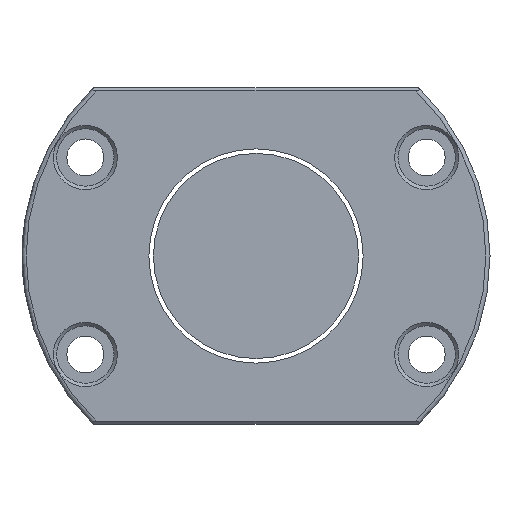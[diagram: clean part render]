
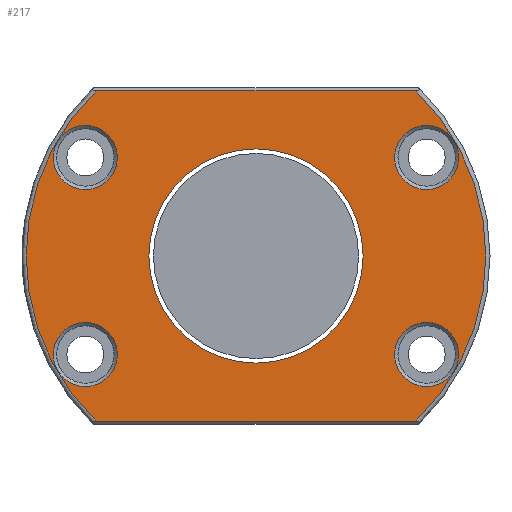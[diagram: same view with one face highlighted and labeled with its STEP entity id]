
A CAD part, left-side view. The second image highlights one B-rep face of the part: STEP entity #217.
In plain terms, the highlighted planar face has unit normal (-1, 0, 0).
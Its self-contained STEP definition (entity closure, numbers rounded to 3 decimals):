
#8 = EDGE_CURVE ( 'NONE', #587, #33, #94, .T. ) ;
#28 = AXIS2_PLACEMENT_3D ( 'NONE', #719, #949, #1255 ) ;
#33 = VERTEX_POINT ( 'NONE', #381 ) ;
#74 = FACE_BOUND ( 'NONE', #3743, .T. ) ;
#85 = EDGE_LOOP ( 'NONE', ( #988 ) ) ;
#94 = LINE ( 'NONE', #1886, #3528 ) ;
#142 = VERTEX_POINT ( 'NONE', #979 ) ;
#217 = ADVANCED_FACE ( 'NONE', ( #2753, #2203, #74, #1846, #1614, #1239 ), #3060, .T. ) ;
#234 = ORIENTED_EDGE ( 'NONE', *, *, #602, .T. ) ;
#253 = CIRCLE ( 'NONE', #3505, 7.8 ) ;
#269 = CIRCLE ( 'NONE', #3081, 7.8 ) ;
#311 = EDGE_LOOP ( 'NONE', ( #3599 ) ) ;
#343 = DIRECTION ( 'NONE',  ( 0., 0., -1. ) ) ;
#381 = CARTESIAN_POINT ( 'NONE',  ( -60., -38.987, -40.2 ) ) ;
#390 = VERTEX_POINT ( 'NONE', #1914 ) ;
#462 = CIRCLE ( 'NONE', #1081, 56. ) ;
#481 = DIRECTION ( 'NONE',  ( 1., 0., 0. ) ) ;
#523 = CARTESIAN_POINT ( 'NONE',  ( -60., 41.569, -16.2 ) ) ;
#587 = VERTEX_POINT ( 'NONE', #1101 ) ;
#602 = EDGE_CURVE ( 'NONE', #3165, #3544, #1375, .T. ) ;
#681 = CARTESIAN_POINT ( 'NONE',  ( -60., -38.987, 40.2 ) ) ;
#689 = EDGE_LOOP ( 'NONE', ( #3052, #1836, #234, #823 ) ) ;
#719 = CARTESIAN_POINT ( 'NONE',  ( -60., 57., 0. ) ) ;
#823 = ORIENTED_EDGE ( 'NONE', *, *, #3300, .T. ) ;
#942 = CIRCLE ( 'NONE', #1687, 7.8 ) ;
#949 = DIRECTION ( 'NONE',  ( -1., 0., 0. ) ) ;
#951 = CARTESIAN_POINT ( 'NONE',  ( -60., 0., 0. ) ) ;
#959 = CARTESIAN_POINT ( 'NONE',  ( -60., -41.569, -16.2 ) ) ;
#965 = CARTESIAN_POINT ( 'NONE',  ( -60., -41.569, -24. ) ) ;
#979 = CARTESIAN_POINT ( 'NONE',  ( -60., -41.569, 31.8 ) ) ;
#988 = ORIENTED_EDGE ( 'NONE', *, *, #3568, .T. ) ;
#1081 = AXIS2_PLACEMENT_3D ( 'NONE', #2886, #1945, #2596 ) ;
#1101 = CARTESIAN_POINT ( 'NONE',  ( -60., 38.987, -40.2 ) ) ;
#1103 = DIRECTION ( 'NONE',  ( 0., 0., 1. ) ) ;
#1116 = ORIENTED_EDGE ( 'NONE', *, *, #1584, .T. ) ;
#1175 = CARTESIAN_POINT ( 'NONE',  ( -60., 41.569, 24. ) ) ;
#1232 = DIRECTION ( 'NONE',  ( 0., 0., 1. ) ) ;
#1239 = FACE_BOUND ( 'NONE', #2107, .T. ) ;
#1255 = DIRECTION ( 'NONE',  ( 0., 0., 1. ) ) ;
#1269 = CIRCLE ( 'NONE', #2712, 56. ) ;
#1312 = EDGE_LOOP ( 'NONE', ( #1116 ) ) ;
#1375 = LINE ( 'NONE', #1997, #2282 ) ;
#1584 = EDGE_CURVE ( 'NONE', #3638, #3638, #253, .T. ) ;
#1613 = CARTESIAN_POINT ( 'NONE',  ( -60., -41.569, 24. ) ) ;
#1614 = FACE_BOUND ( 'NONE', #85, .T. ) ;
#1651 = ORIENTED_EDGE ( 'NONE', *, *, #2249, .T. ) ;
#1670 = DIRECTION ( 'NONE',  ( 0., 0., 1. ) ) ;
#1687 = AXIS2_PLACEMENT_3D ( 'NONE', #1613, #3472, #2524 ) ;
#1836 = ORIENTED_EDGE ( 'NONE', *, *, #3687, .T. ) ;
#1846 = FACE_BOUND ( 'NONE', #311, .T. ) ;
#1886 = CARTESIAN_POINT ( 'NONE',  ( -60., -39.598, -40.2 ) ) ;
#1898 = DIRECTION ( 'NONE',  ( 1., 0., 0. ) ) ;
#1914 = CARTESIAN_POINT ( 'NONE',  ( -60., 41.569, 31.8 ) ) ;
#1945 = DIRECTION ( 'NONE',  ( -1., 0., 0. ) ) ;
#1969 = VERTEX_POINT ( 'NONE', #523 ) ;
#1997 = CARTESIAN_POINT ( 'NONE',  ( -60., 39.598, 40.2 ) ) ;
#2107 = EDGE_LOOP ( 'NONE', ( #2174 ) ) ;
#2174 = ORIENTED_EDGE ( 'NONE', *, *, #2967, .T. ) ;
#2203 = FACE_BOUND ( 'NONE', #1312, .T. ) ;
#2224 = DIRECTION ( 'NONE',  ( 0., -1., 0. ) ) ;
#2247 = DIRECTION ( 'NONE',  ( 0., 0., 1. ) ) ;
#2249 = EDGE_CURVE ( 'NONE', #142, #142, #942, .T. ) ;
#2282 = VECTOR ( 'NONE', #3799, 1000. ) ;
#2303 = CARTESIAN_POINT ( 'NONE',  ( -60., 41.569, -24. ) ) ;
#2358 = DIRECTION ( 'NONE',  ( 1., 0., 0. ) ) ;
#2460 = AXIS2_PLACEMENT_3D ( 'NONE', #951, #3652, #343 ) ;
#2496 = EDGE_CURVE ( 'NONE', #390, #390, #3193, .T. ) ;
#2524 = DIRECTION ( 'NONE',  ( 0., 0., 1. ) ) ;
#2545 = DIRECTION ( 'NONE',  ( -1., 0., 0. ) ) ;
#2596 = DIRECTION ( 'NONE',  ( 0., 0., 1. ) ) ;
#2712 = AXIS2_PLACEMENT_3D ( 'NONE', #3103, #2545, #2247 ) ;
#2753 = FACE_OUTER_BOUND ( 'NONE', #689, .T. ) ;
#2762 = VERTEX_POINT ( 'NONE', #2799 ) ;
#2799 = CARTESIAN_POINT ( 'NONE',  ( -60., 0., -26.1 ) ) ;
#2849 = CARTESIAN_POINT ( 'NONE',  ( -60., 38.987, 40.2 ) ) ;
#2886 = CARTESIAN_POINT ( 'NONE',  ( -60., 0., 0. ) ) ;
#2967 = EDGE_CURVE ( 'NONE', #2762, #2762, #3001, .T. ) ;
#3001 = CIRCLE ( 'NONE', #2460, 26.1 ) ;
#3052 = ORIENTED_EDGE ( 'NONE', *, *, #8, .T. ) ;
#3060 = PLANE ( 'NONE',  #28 ) ;
#3081 = AXIS2_PLACEMENT_3D ( 'NONE', #2303, #481, #1670 ) ;
#3103 = CARTESIAN_POINT ( 'NONE',  ( -60., 0., 0. ) ) ;
#3165 = VERTEX_POINT ( 'NONE', #681 ) ;
#3193 = CIRCLE ( 'NONE', #3755, 7.8 ) ;
#3300 = EDGE_CURVE ( 'NONE', #3544, #587, #462, .T. ) ;
#3472 = DIRECTION ( 'NONE',  ( 1., 0., 0. ) ) ;
#3505 = AXIS2_PLACEMENT_3D ( 'NONE', #965, #1898, #1232 ) ;
#3528 = VECTOR ( 'NONE', #2224, 1000. ) ;
#3544 = VERTEX_POINT ( 'NONE', #2849 ) ;
#3568 = EDGE_CURVE ( 'NONE', #1969, #1969, #269, .T. ) ;
#3599 = ORIENTED_EDGE ( 'NONE', *, *, #2496, .T. ) ;
#3638 = VERTEX_POINT ( 'NONE', #959 ) ;
#3652 = DIRECTION ( 'NONE',  ( 1., 0., 0. ) ) ;
#3687 = EDGE_CURVE ( 'NONE', #33, #3165, #1269, .T. ) ;
#3743 = EDGE_LOOP ( 'NONE', ( #1651 ) ) ;
#3755 = AXIS2_PLACEMENT_3D ( 'NONE', #1175, #2358, #1103 ) ;
#3799 = DIRECTION ( 'NONE',  ( 0., 1., 0. ) ) ;
